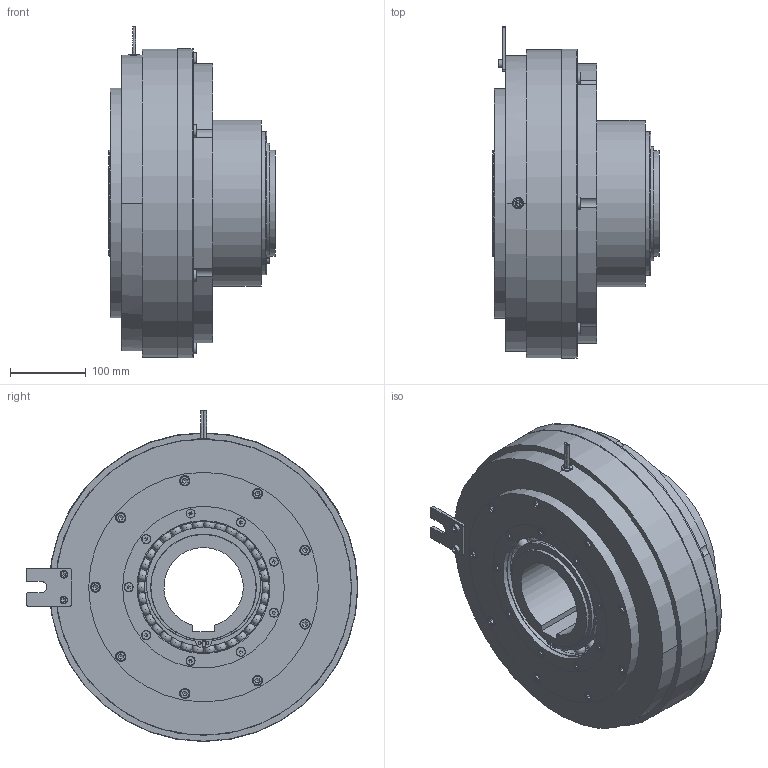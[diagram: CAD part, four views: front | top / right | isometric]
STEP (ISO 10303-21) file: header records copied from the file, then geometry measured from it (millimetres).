
FILE_DESCRIPTION(/* description */ (''),/* implementation_level */ '2;1');
FILE_NAME(/* name */ 'X:\INVENTOR\DISEGNI\08_Freni_Friz_Elettmag_Monodisco\08_26 EMSL_DF\EMSL_DF STEP\08_26_400_41 EMSL400_DF-R@STEP.stp',/* time_stamp */ '2018-04-24T09:55:46+02:00',/* author */ ('stefano'),/* organization */ (''),/* preprocessor_version */ 'ST-DEVELOPER v17',/* originating_system */ 'Autodesk Inventor 2018',/* authorisation */ '');
FILE_SCHEMA (('AUTOMOTIVE_DESIGN { 1 0 10303 214 3 1 1 }'));
Products named in the file (1): 08_26_400_41 EMSL400_DF-R_Substitute_1
Bounding box: 220 x 439.5 x 438.52 mm (x, y, z)
Volume: 13388759.4 mm3; surface area: 1613471 mm2
Topology: 1 solids, 1 shells, 1169 faces, 3829 edges, 2616 vertices
Faces by surface type: plane 430, cylinder 407, torus 172, cone 89, sphere 68, bspline 3
Full cylindrical faces by diameter (mm): 3 x12, 4 x6, 8.376 x10, 10 x2, 10.106 x6, 11.34 x9, 12 x9, 13 x9, 13.5 x9, 13.835 x6, 15 x1, 16 x22, 17.8 x12, 18 x18, 65 x6, 136 x2, 140 x5, 156 x11, 174 x8, 176 x1, 178 x1, 190 x3, 205 x1, 215 x2, 220 x1, 244 x1, 250 x2, 260 x1, 270 x2, 270.3 x1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
Entity records: 54806 total; most frequent: CARTESIAN_POINT 20800, ORIENTED_EDGE 7318, DIRECTION 7011, EDGE_CURVE 3659, AXIS2_PLACEMENT_3D 2989, VERTEX_POINT 2616, CIRCLE 1822, EDGE_LOOP 1573
